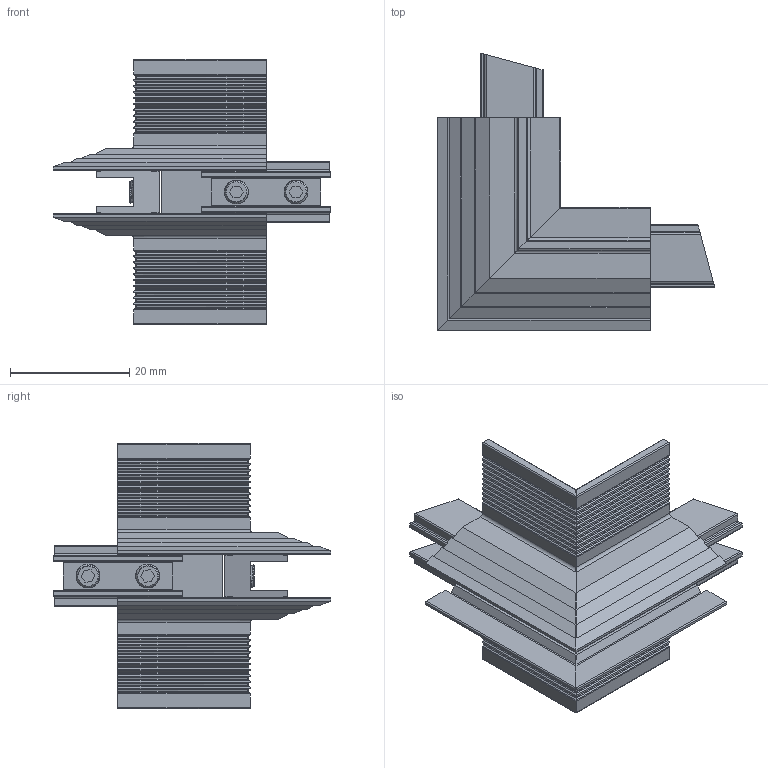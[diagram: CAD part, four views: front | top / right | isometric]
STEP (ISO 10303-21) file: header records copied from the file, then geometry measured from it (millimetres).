
FILE_DESCRIPTION((''),'2;1');
FILE_NAME('KC-0006-95_ASM','2025-08-01T15:33:02',('YF-06'),(''),'CREO PARAMETRIC BY PTC INC, 2022073','CREO PARAMETRIC BY PTC INC, 2022073','');
FILE_SCHEMA(('CONFIG_CONTROL_DESIGN','SHAPE_APPEARANCE_LAYERS_GROUPS'));
Length unit declared in the file: millimetre
Products named in the file (4): KC-0006-0071; KC-0006-0014; M4_5; KC-0006-95_ASM
Assembly tree (8 placements, depth 2):
  KC-0006-95_ASM
    KC-0006-0071  x2
    KC-0006-0014  x2
    M4_5  x4
Bounding box: 46.54 x 46.54 x 44.5 mm (x, y, z)
Volume: 9088.3 mm3; surface area: 12162.8 mm2
Topology: 8 solids, 12 shells, 532 faces, 1508 edges, 996 vertices
Faces by surface type: plane 260, cylinder 220, cone 28, bspline 24
Entity records: 9051 total; most frequent: CARTESIAN_POINT 2616, ORIENTED_EDGE 1344, DIRECTION 1123, EDGE_CURVE 676, VECTOR 453, LINE 453, VERTEX_POINT 447, AXIS2_PLACEMENT_3D 335
